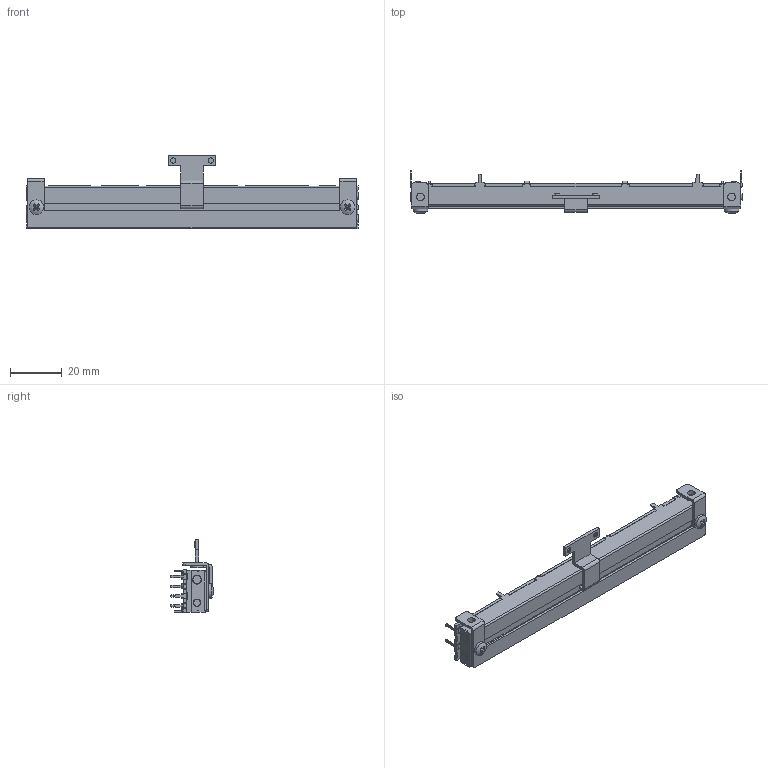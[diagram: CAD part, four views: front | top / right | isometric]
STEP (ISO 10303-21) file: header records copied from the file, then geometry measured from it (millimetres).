
FILE_DESCRIPTION(('FreeCAD Model'),'2;1');
FILE_NAME('Open CASCADE Shape Model','2026-03-31T07:41:17',(''),(''), 'Open CASCADE STEP processor 7.8','FreeCAD','Unknown');
FILE_SCHEMA(('AUTOMOTIVE_DESIGN { 1 0 10303 214 1 1 1 1 }'));
Length unit declared in the file: millimetre
Products named in the file (1): 2DSVH-110X
Bounding box: 128 x 16.55 x 28.25 mm (x, y, z)
Volume: 19204.5 mm3; surface area: 9286.3 mm2
Topology: 2 solids, 6 shells, 667 faces, 1839 edges, 1202 vertices
Faces by surface type: plane 471, cylinder 176, cone 18, sphere 2
Full cylindrical faces by diameter (mm): 0.5 x6, 1.5 x2, 2 x4, 2.5 x2, 3 x7, 3.2 x2, 3.5 x1, 4 x2, 5 x2, 5.6 x2
Entity records: 24180 total; most frequent: CARTESIAN_POINT 3719, ORIENTED_EDGE 3674, DIRECTION 3659, EDGE_CURVE 1837, LINE 1327, VECTOR 1327, VERTEX_POINT 1202, AXIS2_PLACEMENT_3D 1166
